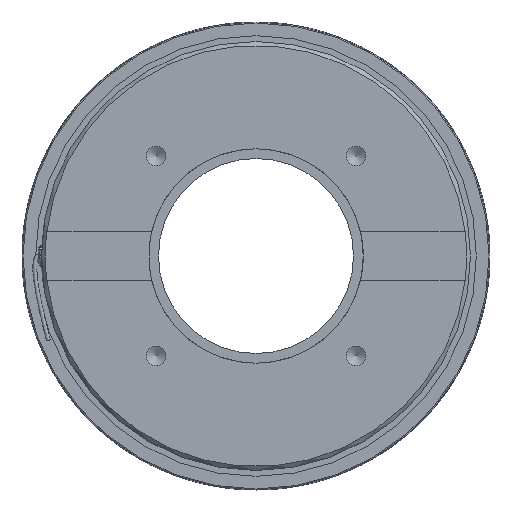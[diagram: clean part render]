
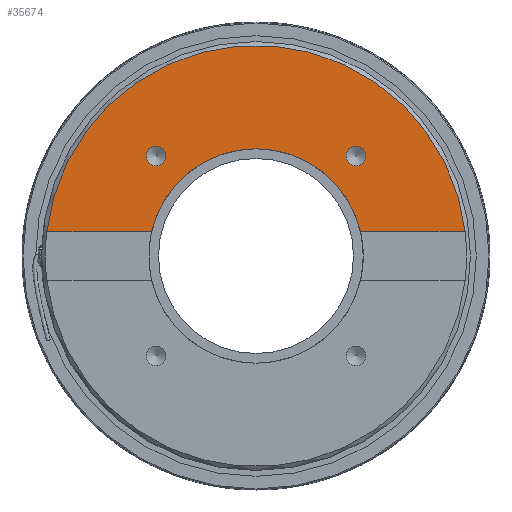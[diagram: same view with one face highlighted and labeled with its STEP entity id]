
A CAD part, left-side view. The second image highlights one B-rep face of the part: STEP entity #35674.
In plain terms, the highlighted planar face has unit normal (-1, 0, 0).
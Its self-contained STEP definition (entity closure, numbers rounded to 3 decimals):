
#2379=FACE_BOUND('',#7137,.T.);
#2380=FACE_BOUND('',#7138,.T.);
#3384=CIRCLE('',#40612,55.);
#3387=CIRCLE('',#40616,108.);
#3390=CIRCLE('',#40621,5.053);
#3391=CIRCLE('',#40622,5.053);
#5301=FACE_OUTER_BOUND('',#7136,.T.);
#7136=EDGE_LOOP('',(#30278,#30279,#30280,#30281));
#7137=EDGE_LOOP('',(#30282));
#7138=EDGE_LOOP('',(#30283));
#9139=LINE('',#67875,#11114);
#9141=LINE('',#67881,#11116);
#11114=VECTOR('',#52375,10.);
#11116=VECTOR('',#52379,10.);
#14588=VERTEX_POINT('',#67871);
#14589=VERTEX_POINT('',#67873);
#14590=VERTEX_POINT('',#67877);
#14592=VERTEX_POINT('',#67880);
#14596=VERTEX_POINT('',#67903);
#14597=VERTEX_POINT('',#67905);
#19833=EDGE_CURVE('',#14588,#14589,#9139,.T.);
#19835=EDGE_CURVE('',#14592,#14590,#9141,.T.);
#19843=EDGE_CURVE('',#14589,#14592,#3384,.T.);
#19846=EDGE_CURVE('',#14588,#14590,#3387,.T.);
#19849=EDGE_CURVE('',#14596,#14596,#3390,.T.);
#19850=EDGE_CURVE('',#14597,#14597,#3391,.T.);
#30278=ORIENTED_EDGE('',*,*,#19835,.T.);
#30279=ORIENTED_EDGE('',*,*,#19846,.F.);
#30280=ORIENTED_EDGE('',*,*,#19833,.T.);
#30281=ORIENTED_EDGE('',*,*,#19843,.T.);
#30282=ORIENTED_EDGE('',*,*,#19849,.T.);
#30283=ORIENTED_EDGE('',*,*,#19850,.T.);
#32137=PLANE('',#40620);
#35674=ADVANCED_FACE('',(#5301,#2379,#2380),#32137,.T.);
#40612=AXIS2_PLACEMENT_3D('',#67894,#52395,#52396);
#40616=AXIS2_PLACEMENT_3D('',#67898,#52403,#52404);
#40620=AXIS2_PLACEMENT_3D('',#67902,#52411,#52412);
#40621=AXIS2_PLACEMENT_3D('',#67904,#52413,#52414);
#40622=AXIS2_PLACEMENT_3D('',#67906,#52415,#52416);
#52375=DIRECTION('',(0.,-1.,0.));
#52379=DIRECTION('',(0.,-1.,0.));
#52395=DIRECTION('center_axis',(1.,0.,0.));
#52396=DIRECTION('ref_axis',(0.,1.,0.));
#52403=DIRECTION('center_axis',(1.,0.,0.));
#52404=DIRECTION('ref_axis',(0.,1.,0.));
#52411=DIRECTION('center_axis',(-1.,0.,0.));
#52412=DIRECTION('ref_axis',(0.,0.,1.));
#52413=DIRECTION('center_axis',(1.,0.,0.));
#52414=DIRECTION('ref_axis',(0.,0.,1.));
#52415=DIRECTION('center_axis',(1.,0.,0.));
#52416=DIRECTION('ref_axis',(0.,0.,1.));
#67871=CARTESIAN_POINT('',(-22.5,107.274,12.5));
#67873=CARTESIAN_POINT('',(-22.5,53.561,12.5));
#67875=CARTESIAN_POINT('',(-22.5,115.75,12.5));
#67877=CARTESIAN_POINT('',(-22.5,-107.274,12.5));
#67880=CARTESIAN_POINT('',(-22.5,-53.561,12.5));
#67881=CARTESIAN_POINT('',(-22.5,115.75,12.5));
#67894=CARTESIAN_POINT('Origin',(-22.5,0.,0.));
#67898=CARTESIAN_POINT('Origin',(-22.5,0.,0.));
#67902=CARTESIAN_POINT('Origin',(-22.5,81.5,0.));
#67903=CARTESIAN_POINT('',(-22.5,51.265,46.212));
#67904=CARTESIAN_POINT('Origin',(-22.5,51.265,51.265));
#67905=CARTESIAN_POINT('',(-22.5,-51.265,46.212));
#67906=CARTESIAN_POINT('Origin',(-22.5,-51.265,51.265));
